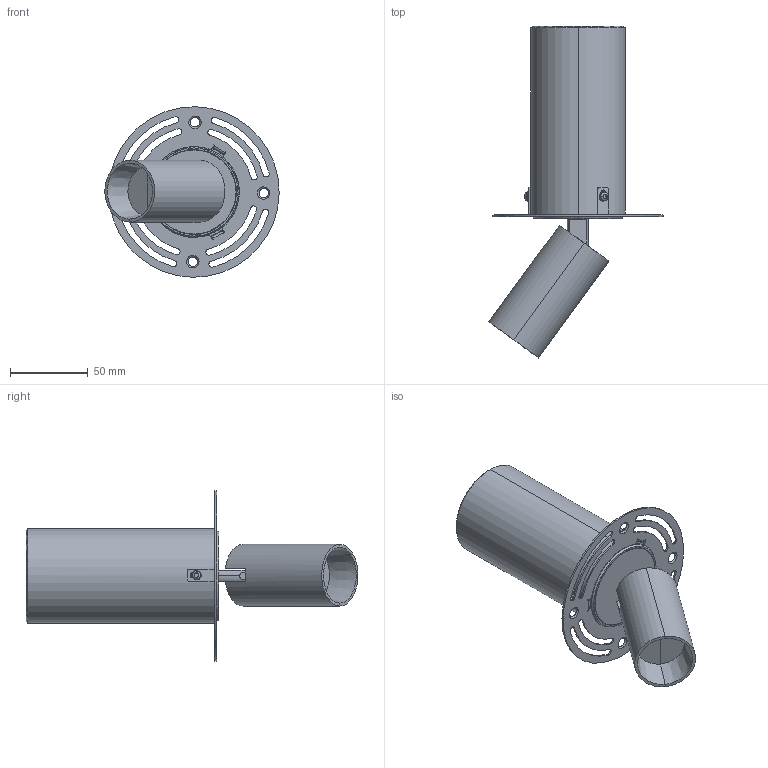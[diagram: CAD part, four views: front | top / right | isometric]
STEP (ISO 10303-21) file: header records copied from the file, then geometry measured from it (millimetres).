
FILE_DESCRIPTION (( 'STEP AP203' ), '1' );
FILE_NAME ('Ariel In&Out F - m per BIM.STEP', '2024-02-12T09:15:22', ( '' ), ( '' ), 'SwSTEP 2.0', 'SolidWorks 2023', '' );
FILE_SCHEMA (( 'CONFIG_CONTROL_DESIGN' ));
Length unit declared in the file: millimetre
Products named in the file (9): Vite M3x4 TBEI; 104520--REV A_SENZA TASSELLI; 104518--REV A; 105459--REV C; Corpo Ariel IN&OUT; Rondella dentellata M3; Cilindro scorrimento ARIEL IN&OUT; 104519--REV C; Ariel In&Out F - m per BIM
Assembly tree (12 placements, depth 3):
  Ariel In&Out F - m per BIM
    105459--REV C
    104520--REV A_SENZA TASSELLI
      104518--REV A
      104519--REV C
      Vite M3x4 TBEI  x3
      Rondella dentellata M3  x3
    Corpo Ariel IN&OUT
    Cilindro scorrimento ARIEL IN&OUT
Bounding box: 112.47 x 214.16 x 109.99 mm (x, y, z)
Volume: 221724.5 mm3; surface area: 89741.2 mm2
Topology: 11 solids, 11 shells, 426 faces, 1107 edges, 711 vertices
Faces by surface type: plane 246, cylinder 146, cone 26, torus 8
Entity records: 10225 total; most frequent: CARTESIAN_POINT 1980, DIRECTION 1580, ORIENTED_EDGE 1466, EDGE_CURVE 733, AXIS2_PLACEMENT_3D 601, VERTEX_POINT 471, VECTOR 378, LINE 378
